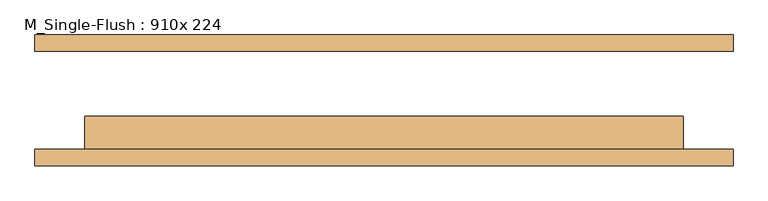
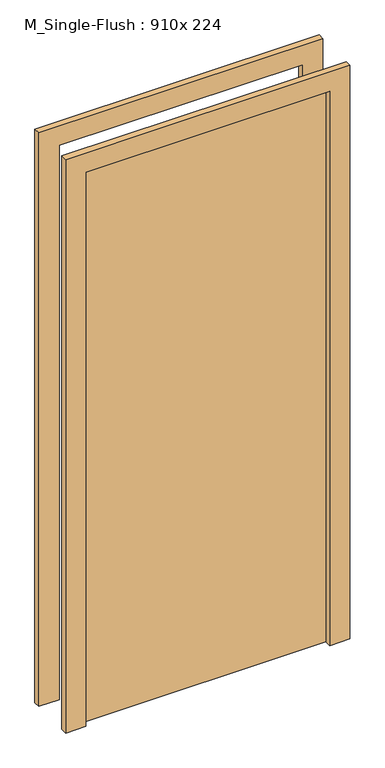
"""IFC4 building model written with IfcOpenShell, lengths in millimetres: door geometry, M_Single-Flush : 910x 224."""

from ifc_helpers import new_model, si_unit, frame, origin, origin_with_axes, place, context, project, spatial, polyline, outline, extrude, source, transform, mapped, element, save


def m_single_flush_910x_224_d199ccfa(model_context):
    return source(origin(), model_context, "Body", "SweptSolid", [
        extrude(outline(polyline([(2276.0, -533.5), (0.0, -533.5), (0.0, -457.5), (2200.0, -457.5), (2200.0, 457.5), (0.0, 457.5), (0.0, 533.5), (2276.0, 533.5), (2276.0, -533.5)])), frame((0.0, -100.0, 0.0), z_axis=(0.0, 1.0, 0.0), x_axis=(0.0, 0.0, 1.0)), (0.0, 0.0, 1.0), 25.0),
        extrude(outline(polyline([(2276.0, 533.5), (2276.0, -533.5), (0.0, -533.5), (0.0, -457.5), (2200.0, -457.5), (2200.0, 457.5), (0.0, 457.5), (0.0, 533.5), (2276.0, 533.5)])), frame((0.0, 75.0, 0.0), z_axis=(0.0, 1.0, 0.0), x_axis=(0.0, 0.0, 1.0)), (0.0, 0.0, 1.0), 25.0),
        extrude(outline(polyline([(457.5, -24.0), (457.5, -75.0), (-457.5, -75.0), (-457.5, -24.0), (457.5, -24.0)])), origin_with_axes(), (0.0, 0.0, 1.0), 2200.0),
    ])


if __name__ == "__main__":
    model = new_model("IFC4")
    model_context = context("Model", 3, world=origin())
    ifc_project = project(units=[si_unit("LENGTHUNIT", "METRE", prefix="MILLI")], contexts=[model_context])
    site = spatial("IfcSite", under=ifc_project)
    building = spatial("IfcBuilding", under=site)
    placement = place(None, origin())
    m_single_flush_910x_224_shape = m_single_flush_910x_224_d199ccfa(model_context)
    element("IfcDoor", 1, ObjectType="M_Single-Flush : 910x 224", at=placement, inside=building, context=model_context, shape_type="MappedRepresentation", body=[
        mapped(m_single_flush_910x_224_shape, transform((0.0, 0.0, 0.0), x_axis=(1.0, 0.0, 0.0), y_axis=(0.0, 1.0, 0.0), z_axis=(0.0, 0.0, 1.0))),
    ])
    save(model, "model.ifc")
